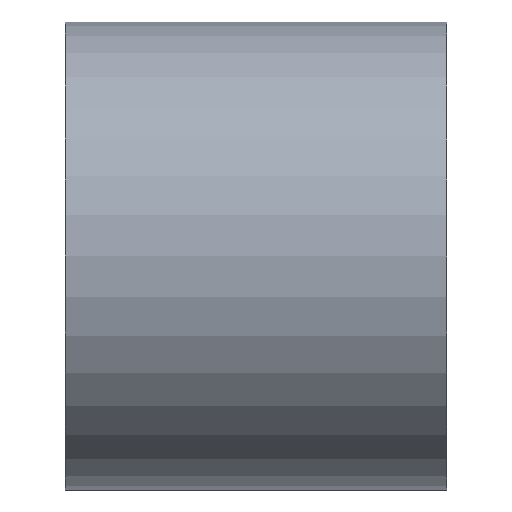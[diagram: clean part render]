
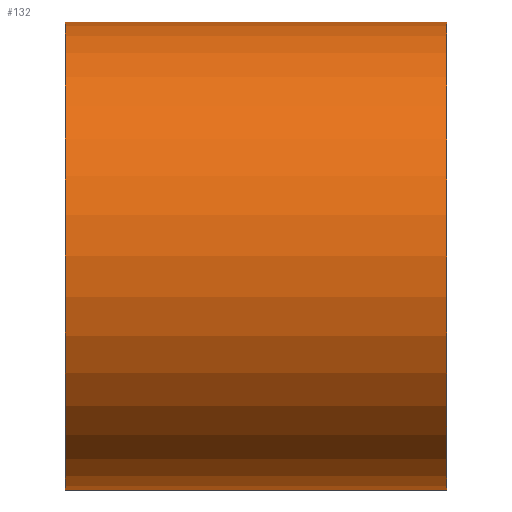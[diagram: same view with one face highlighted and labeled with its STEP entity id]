
A CAD part, front view. The second image highlights one B-rep face of the part: STEP entity #132.
In plain terms, the highlighted cylindrical face has radius 435 mm (diameter 870 mm), a partial arc.
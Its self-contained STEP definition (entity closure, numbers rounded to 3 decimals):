
#132=ADVANCED_FACE('',(#260),#261,.T.);
#260=FACE_OUTER_BOUND('',#415,.T.);
#261=CYLINDRICAL_SURFACE('',#416,435.0);
#415=EDGE_LOOP('',(#739,#740,#741,#742));
#416=AXIS2_PLACEMENT_3D('',#743,#744,#745);
#739=ORIENTED_EDGE('',*,*,#827,.T.);
#740=ORIENTED_EDGE('',*,*,#968,.F.);
#741=ORIENTED_EDGE('',*,*,#829,.T.);
#742=ORIENTED_EDGE('',*,*,#969,.F.);
#743=CARTESIAN_POINT('',(0.0,0.0,0.0));
#744=DIRECTION('',(1.0,0.0,0.0));
#745=DIRECTION('',(0.0,0.0,-1.0));
#827=EDGE_CURVE('',#973,#974,#975,.T.);
#829=EDGE_CURVE('',#978,#976,#979,.T.);
#968=EDGE_CURVE('',#978,#974,#1186,.T.);
#969=EDGE_CURVE('',#973,#976,#1187,.T.);
#973=VERTEX_POINT('',#1191);
#974=VERTEX_POINT('',#1192);
#975=LINE('',#1193,#1194);
#976=VERTEX_POINT('',#1195);
#978=VERTEX_POINT('',#1197);
#979=LINE('',#1198,#1199);
#1186=CIRCLE('',#1440,435.0);
#1187=CIRCLE('',#1441,435.0);
#1191=CARTESIAN_POINT('',(-355.0,0.0,-435.0));
#1192=CARTESIAN_POINT('',(355.0,0.0,-435.0));
#1193=CARTESIAN_POINT('',(0.0,0.,-435.0));
#1194=VECTOR('',#1444,1.0);
#1195=CARTESIAN_POINT('',(-355.0,0.,435.0));
#1197=CARTESIAN_POINT('',(355.0,0.,435.0));
#1198=CARTESIAN_POINT('',(0.0,0.,435.0));
#1199=VECTOR('',#1448,1.0);
#1440=AXIS2_PLACEMENT_3D('',#1690,#1691,#1692);
#1441=AXIS2_PLACEMENT_3D('',#1693,#1694,#1695);
#1444=DIRECTION('',(1.0,0.0,0.0));
#1448=DIRECTION('',(-1.0,-0.0,-0.0));
#1690=CARTESIAN_POINT('',(355.0,0.0,0.0));
#1691=DIRECTION('',(1.0,0.0,0.0));
#1692=DIRECTION('',(0.0,0.0,-1.0));
#1693=CARTESIAN_POINT('',(-355.0,0.0,0.0));
#1694=DIRECTION('',(-1.0,0.0,0.0));
#1695=DIRECTION('',(0.0,0.0,-1.0));
